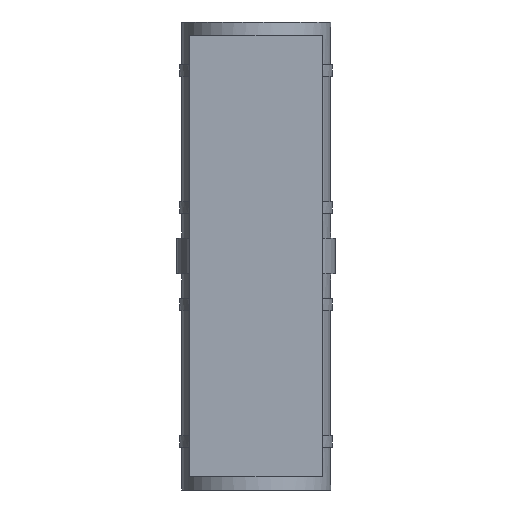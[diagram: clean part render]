
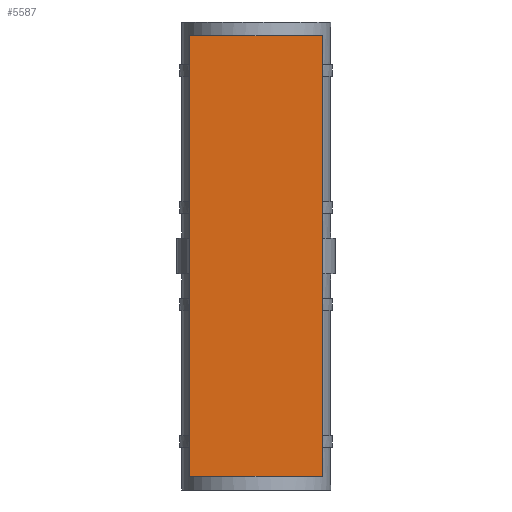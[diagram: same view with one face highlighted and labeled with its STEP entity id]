
A CAD part, front view. The second image highlights one B-rep face of the part: STEP entity #5587.
In plain terms, the highlighted planar face has unit normal (0, -1, 0).
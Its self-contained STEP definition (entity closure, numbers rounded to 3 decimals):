
#188=PLANE('',#5946);
#646=FACE_OUTER_BOUND('',#941,.T.);
#941=EDGE_LOOP('',(#4036,#4037,#4038,#4039));
#1485=LINE('',#9664,#1841);
#1486=LINE('',#9666,#1842);
#1487=LINE('',#9668,#1843);
#1488=LINE('',#9669,#1844);
#1841=VECTOR('',#6736,10.);
#1842=VECTOR('',#6737,10.);
#1843=VECTOR('',#6738,10.);
#1844=VECTOR('',#6739,10.);
#2273=VERTEX_POINT('',#9662);
#2274=VERTEX_POINT('',#9663);
#2275=VERTEX_POINT('',#9665);
#2276=VERTEX_POINT('',#9667);
#2924=EDGE_CURVE('',#2273,#2274,#1485,.T.);
#2925=EDGE_CURVE('',#2275,#2273,#1486,.T.);
#2926=EDGE_CURVE('',#2276,#2275,#1487,.T.);
#2927=EDGE_CURVE('',#2274,#2276,#1488,.T.);
#4036=ORIENTED_EDGE('',*,*,#2924,.F.);
#4037=ORIENTED_EDGE('',*,*,#2925,.F.);
#4038=ORIENTED_EDGE('',*,*,#2926,.F.);
#4039=ORIENTED_EDGE('',*,*,#2927,.F.);
#5587=ADVANCED_FACE('',(#646),#188,.F.);
#5946=AXIS2_PLACEMENT_3D('',#9661,#6734,#6735);
#6734=DIRECTION('center_axis',(0.,1.,0.));
#6735=DIRECTION('ref_axis',(0.,0.,1.));
#6736=DIRECTION('',(1.,0.,0.));
#6737=DIRECTION('',(0.,0.,1.));
#6738=DIRECTION('',(-1.,0.,0.));
#6739=DIRECTION('',(0.,0.,-1.));
#9661=CARTESIAN_POINT('Origin',(0.,-155.,-193.75));
#9662=CARTESIAN_POINT('',(-110.,-155.,365.));
#9663=CARTESIAN_POINT('',(110.,-155.,365.));
#9664=CARTESIAN_POINT('',(-110.,-155.,365.));
#9665=CARTESIAN_POINT('',(-110.,-155.,-365.));
#9666=CARTESIAN_POINT('',(-110.,-155.,-365.));
#9667=CARTESIAN_POINT('',(110.,-155.,-365.));
#9668=CARTESIAN_POINT('',(110.,-155.,-365.));
#9669=CARTESIAN_POINT('',(110.,-155.,365.));
